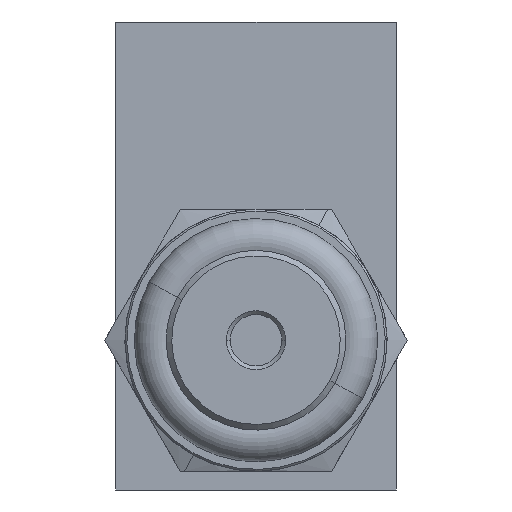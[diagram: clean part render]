
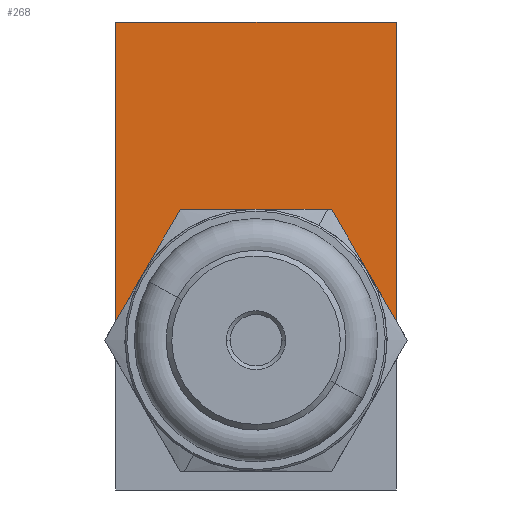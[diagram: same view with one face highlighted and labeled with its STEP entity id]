
A CAD part, front view. The second image highlights one B-rep face of the part: STEP entity #268.
In plain terms, the highlighted planar face has unit normal (0, -1, 0).
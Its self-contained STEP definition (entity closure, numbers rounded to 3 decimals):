
#103=CARTESIAN_POINT('Vertex',(-7.5,31.5,17.)) ;
#122=CARTESIAN_POINT('Vertex',(-7.5,31.5,1.01)) ;
#125=CARTESIAN_POINT('Line Origine',(-7.5,31.5,9.005)) ;
#168=CARTESIAN_POINT('Line Origine',(7.5,31.5,9.005)) ;
#172=CARTESIAN_POINT('Vertex',(7.5,31.5,17.)) ;
#174=CARTESIAN_POINT('Vertex',(7.5,31.5,1.01)) ;
#203=CARTESIAN_POINT('Axis2P3D Location',(0.,31.5,17.)) ;
#236=CARTESIAN_POINT('Line Origine',(-5.771,31.5,4.005)) ;
#240=CARTESIAN_POINT('Vertex',(-4.041,31.5,7.)) ;
#243=CARTESIAN_POINT('Line Origine',(0.,31.5,7.)) ;
#247=CARTESIAN_POINT('Vertex',(4.041,31.5,7.)) ;
#250=CARTESIAN_POINT('Line Origine',(5.771,31.5,4.005)) ;
#255=CARTESIAN_POINT('Line Origine',(0.,31.5,17.)) ;
#126=DIRECTION('Vector Direction',(0.,0.,-1.)) ;
#169=DIRECTION('Vector Direction',(0.,0.,-1.)) ;
#204=DIRECTION('Axis2P3D Direction',(0.,1.,0.)) ;
#205=DIRECTION('Axis2P3D XDirection',(0.,0.,-1.)) ;
#237=DIRECTION('Vector Direction',(0.5,0.,0.866)) ;
#244=DIRECTION('Vector Direction',(1.,0.,0.)) ;
#251=DIRECTION('Vector Direction',(0.5,0.,-0.866)) ;
#256=DIRECTION('Vector Direction',(-1.,0.,0.)) ;
#206=AXIS2_PLACEMENT_3D('Plane Axis2P3D',#203,#204,#205) ;
#261=ORIENTED_EDGE('',*,*,#242,.T.) ;
#262=ORIENTED_EDGE('',*,*,#249,.T.) ;
#263=ORIENTED_EDGE('',*,*,#254,.T.) ;
#264=ORIENTED_EDGE('',*,*,#176,.F.) ;
#265=ORIENTED_EDGE('',*,*,#259,.T.) ;
#266=ORIENTED_EDGE('',*,*,#129,.T.) ;
#127=VECTOR('Line Direction',#126,1.) ;
#170=VECTOR('Line Direction',#169,1.) ;
#238=VECTOR('Line Direction',#237,1.) ;
#245=VECTOR('Line Direction',#244,1.) ;
#252=VECTOR('Line Direction',#251,1.) ;
#257=VECTOR('Line Direction',#256,1.) ;
#268=ADVANCED_FACE('',(#267),#207,.F.) ;
#129=EDGE_CURVE('',#104,#123,#128,.T.) ;
#176=EDGE_CURVE('',#173,#175,#171,.T.) ;
#242=EDGE_CURVE('',#123,#241,#239,.T.) ;
#249=EDGE_CURVE('',#241,#248,#246,.T.) ;
#254=EDGE_CURVE('',#248,#175,#253,.T.) ;
#259=EDGE_CURVE('',#173,#104,#258,.T.) ;
#260=EDGE_LOOP('',(#261,#262,#263,#264,#265,#266)) ;
#267=FACE_OUTER_BOUND('',#260,.T.) ;
#128=LINE('Line',#125,#127) ;
#171=LINE('Line',#168,#170) ;
#239=LINE('Line',#236,#238) ;
#246=LINE('Line',#243,#245) ;
#253=LINE('Line',#250,#252) ;
#258=LINE('Line',#255,#257) ;
#207=PLANE('Plane',#206) ;
#104=VERTEX_POINT('',#103) ;
#123=VERTEX_POINT('',#122) ;
#173=VERTEX_POINT('',#172) ;
#175=VERTEX_POINT('',#174) ;
#241=VERTEX_POINT('',#240) ;
#248=VERTEX_POINT('',#247) ;
